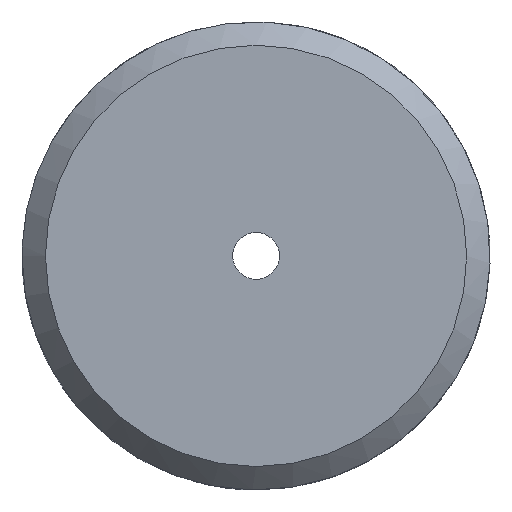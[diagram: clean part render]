
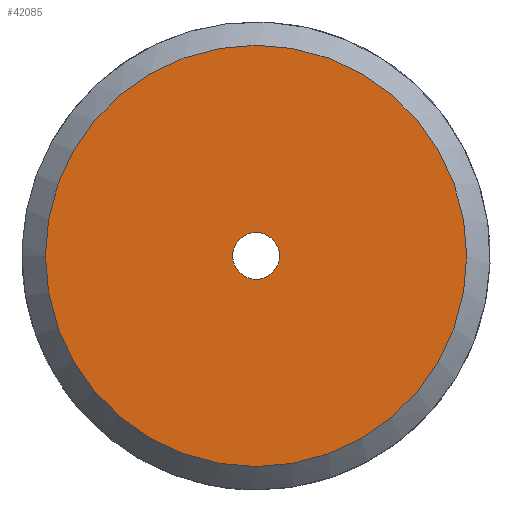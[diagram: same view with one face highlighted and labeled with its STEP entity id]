
A CAD part, left-side view. The second image highlights one B-rep face of the part: STEP entity #42085.
In plain terms, the highlighted planar face has unit normal (-1, 0, 0).
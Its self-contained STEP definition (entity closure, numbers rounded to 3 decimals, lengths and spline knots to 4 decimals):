
#13088=ORIENTED_EDGE('',*,*,#15087,.F.);
#13089=ORIENTED_EDGE('',*,*,#15088,.F.);
#13374=CIRCLE('',#41779,9.);
#13375=CIRCLE('',#41781,1.);
#14083=VERTEX_POINT('',#41236);
#14084=VERTEX_POINT('',#41239);
#15087=EDGE_CURVE('',#14083,#14083,#13374,.T.);
#15088=EDGE_CURVE('',#14084,#14084,#13375,.T.);
#15390=EDGE_LOOP('',(#13088));
#15391=EDGE_LOOP('',(#13089));
#15695=FACE_BOUND('',#15390,.T.);
#15696=FACE_BOUND('',#15391,.T.);
#16769=DIRECTION('',(1.,0.,0.));
#16770=DIRECTION('',(0.,0.,-9.));
#16771=DIRECTION('',(-1.,0.,0.));
#16772=DIRECTION('',(0.,1.,0.));
#16773=DIRECTION('',(-1.,0.,0.));
#16774=DIRECTION('',(0.,0.,1.));
#41236=CARTESIAN_POINT('',(0.,0.,-9.));
#41237=CARTESIAN_POINT('',(0.,0.,0.));
#41238=CARTESIAN_POINT('',(0.,0.,-9.));
#41239=CARTESIAN_POINT('',(0.,0.,1.));
#41240=CARTESIAN_POINT('',(0.,0.,0.));
#41779=AXIS2_PLACEMENT_3D('',#41237,#16769,#16770);
#41780=AXIS2_PLACEMENT_3D('',#41238,#16771,#16772);
#41781=AXIS2_PLACEMENT_3D('',#41240,#16773,#16774);
#41786=PLANE('',#41780);
#42085=ADVANCED_FACE('',(#15695,#15696),#41786,.T.);
